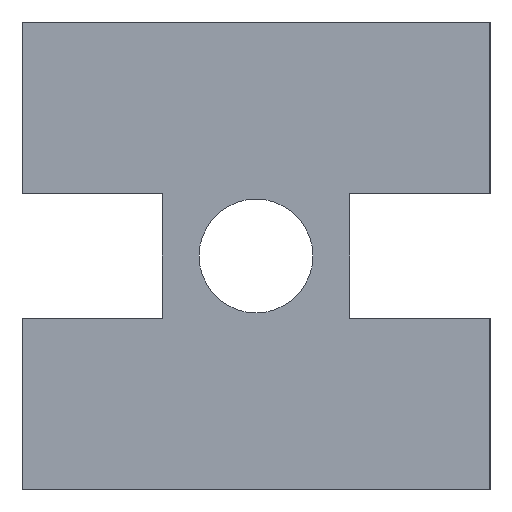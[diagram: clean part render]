
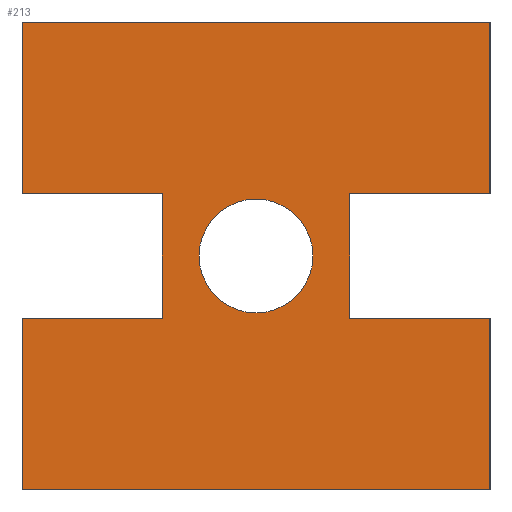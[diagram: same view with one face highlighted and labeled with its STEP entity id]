
A CAD part, left-side view. The second image highlights one B-rep face of the part: STEP entity #213.
In plain terms, the highlighted planar face has unit normal (-1, 0, 0).
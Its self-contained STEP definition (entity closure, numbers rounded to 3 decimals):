
#111=EDGE_CURVE('',#197,#181,#301,.T.);
#113=EDGE_CURVE('',#175,#215,#303,.T.);
#115=EDGE_CURVE('',#169,#239,#305,.T.);
#129=EDGE_CURVE('',#241,#197,#319,.T.);
#143=EDGE_CURVE('',#247,#169,#334,.T.);
#151=EDGE_CURVE('',#269,#241,#343,.T.);
#153=EDGE_CURVE('',#263,#255,#345,.T.);
#167=EDGE_CURVE('',#239,#223,#360,.T.);
#169=VERTEX_POINT('',#362);
#175=VERTEX_POINT('',#369);
#181=VERTEX_POINT('',#375);
#189=EDGE_CURVE('',#211,#263,#386,.T.);
#197=VERTEX_POINT('',#395);
#199=EDGE_CURVE('',#255,#269,#397,.T.);
#207=EDGE_CURVE('',#181,#247,#407,.T.);
#211=VERTEX_POINT('',#411);
#213=ADVANCED_FACE('',(#413,#414),#415,.F.);
#215=VERTEX_POINT('',#417);
#221=VERTEX_POINT('',#423);
#223=VERTEX_POINT('',#425);
#239=VERTEX_POINT('',#443);
#241=VERTEX_POINT('',#445);
#245=EDGE_CURVE('',#221,#211,#449,.T.);
#247=VERTEX_POINT('',#451);
#255=VERTEX_POINT('',#460);
#263=VERTEX_POINT('',#469);
#265=EDGE_CURVE('',#223,#221,#471,.T.);
#269=VERTEX_POINT('',#475);
#283=EDGE_CURVE('',#215,#175,#491,.T.);
#301=LINE('',#500,#501);
#303=CIRCLE('',#504,3.65);
#305=LINE('',#507,#508);
#319=LINE('',#531,#532);
#334=LINE('',#553,#554);
#343=LINE('',#566,#567);
#345=LINE('',#570,#571);
#360=LINE('',#594,#595);
#362=CARTESIAN_POINT('',(0.0,-6.0,4.0));
#369=CARTESIAN_POINT('',(0.0,-3.65,0.0));
#375=CARTESIAN_POINT('',(0.0,-15.0,15.0));
#386=LINE('',#622,#623);
#395=CARTESIAN_POINT('',(0.0,15.0,15.0));
#397=LINE('',#639,#640);
#407=LINE('',#651,#652);
#411=CARTESIAN_POINT('',(0.0,15.0,-15.0));
#413=FACE_BOUND('',#660,.T.);
#414=FACE_OUTER_BOUND('',#661,.T.);
#415=PLANE('',#662);
#417=CARTESIAN_POINT('',(0.0,3.65,0.));
#423=CARTESIAN_POINT('',(0.0,-15.0,-15.0));
#425=CARTESIAN_POINT('',(0.0,-15.0,-4.0));
#443=CARTESIAN_POINT('',(0.0,-6.0,-4.0));
#445=CARTESIAN_POINT('',(0.0,15.0,4.0));
#449=LINE('',#709,#710);
#451=CARTESIAN_POINT('',(0.0,-15.0,4.0));
#460=CARTESIAN_POINT('',(0.0,6.0,-4.0));
#469=CARTESIAN_POINT('',(0.0,15.0,-4.0));
#471=LINE('',#740,#741);
#475=CARTESIAN_POINT('',(0.0,6.0,4.0));
#491=CIRCLE('',#768,3.65);
#500=CARTESIAN_POINT('',(0.0,15.0,15.0));
#501=VECTOR('',#770,1.0);
#504=AXIS2_PLACEMENT_3D('',#771,#772,#773);
#507=CARTESIAN_POINT('',(0.0,-6.0,4.0));
#508=VECTOR('',#774,1.0);
#531=CARTESIAN_POINT('',(0.0,15.0,4.0));
#532=VECTOR('',#779,1.0);
#553=CARTESIAN_POINT('',(0.0,-15.0,4.0));
#554=VECTOR('',#793,1.0);
#566=CARTESIAN_POINT('',(0.0,6.0,4.0));
#567=VECTOR('',#803,1.0);
#570=CARTESIAN_POINT('',(0.0,15.0,-4.0));
#571=VECTOR('',#804,1.0);
#594=CARTESIAN_POINT('',(0.0,-6.0,-4.0));
#595=VECTOR('',#818,1.0);
#622=CARTESIAN_POINT('',(0.0,15.0,-15.0));
#623=VECTOR('',#853,1.0);
#639=CARTESIAN_POINT('',(0.0,6.0,-4.0));
#640=VECTOR('',#864,1.0);
#651=CARTESIAN_POINT('',(0.0,-15.0,15.0));
#652=VECTOR('',#881,1.0);
#660=EDGE_LOOP('',(#884,#885));
#661=EDGE_LOOP('',(#886,#887,#888,#889,#890,#891,#892,#893,#894,#895,#896,#897));
#662=AXIS2_PLACEMENT_3D('',#898,#899,#900);
#709=CARTESIAN_POINT('',(0.0,-15.0,-15.0));
#710=VECTOR('',#923,1.0);
#740=CARTESIAN_POINT('',(0.0,-15.0,-4.0));
#741=VECTOR('',#946,1.0);
#768=AXIS2_PLACEMENT_3D('',#966,#967,#968);
#770=DIRECTION('',(0.0,-1.0,0.0));
#771=CARTESIAN_POINT('',(0.0,0.0,0.0));
#772=DIRECTION('',(1.0,0.0,0.0));
#773=DIRECTION('',(0.0,-1.0,0.0));
#774=DIRECTION('',(0.0,0.0,-1.0));
#779=DIRECTION('',(0.0,0.0,1.0));
#793=DIRECTION('',(0.0,1.0,0.0));
#803=DIRECTION('',(0.0,1.0,0.0));
#804=DIRECTION('',(0.0,-1.0,0.0));
#818=DIRECTION('',(0.0,-1.0,0.0));
#853=DIRECTION('',(0.0,0.0,1.0));
#864=DIRECTION('',(0.0,0.0,1.0));
#881=DIRECTION('',(0.0,0.0,-1.0));
#884=ORIENTED_EDGE('',*,*,#113,.T.);
#885=ORIENTED_EDGE('',*,*,#283,.T.);
#886=ORIENTED_EDGE('',*,*,#189,.F.);
#887=ORIENTED_EDGE('',*,*,#245,.F.);
#888=ORIENTED_EDGE('',*,*,#265,.F.);
#889=ORIENTED_EDGE('',*,*,#167,.F.);
#890=ORIENTED_EDGE('',*,*,#115,.F.);
#891=ORIENTED_EDGE('',*,*,#143,.F.);
#892=ORIENTED_EDGE('',*,*,#207,.F.);
#893=ORIENTED_EDGE('',*,*,#111,.F.);
#894=ORIENTED_EDGE('',*,*,#129,.F.);
#895=ORIENTED_EDGE('',*,*,#151,.F.);
#896=ORIENTED_EDGE('',*,*,#199,.F.);
#897=ORIENTED_EDGE('',*,*,#153,.F.);
#898=CARTESIAN_POINT('',(0.0,0.0,0.));
#899=DIRECTION('',(1.0,0.0,0.0));
#900=DIRECTION('',(0.0,-1.0,0.0));
#923=DIRECTION('',(0.0,1.0,0.0));
#946=DIRECTION('',(0.0,0.0,-1.0));
#966=CARTESIAN_POINT('',(0.0,0.0,0.0));
#967=DIRECTION('',(1.0,0.0,0.0));
#968=DIRECTION('',(0.0,-1.0,0.0));
